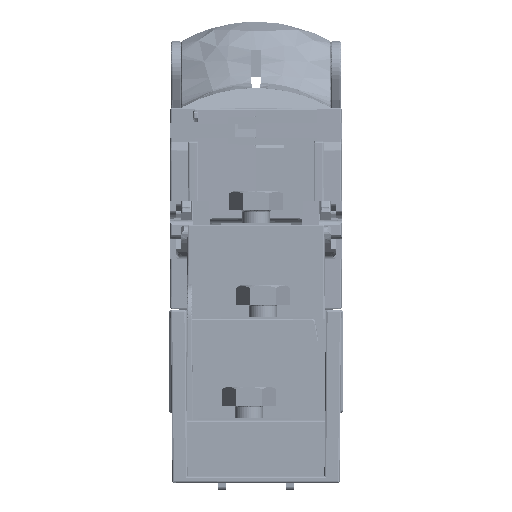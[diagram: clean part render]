
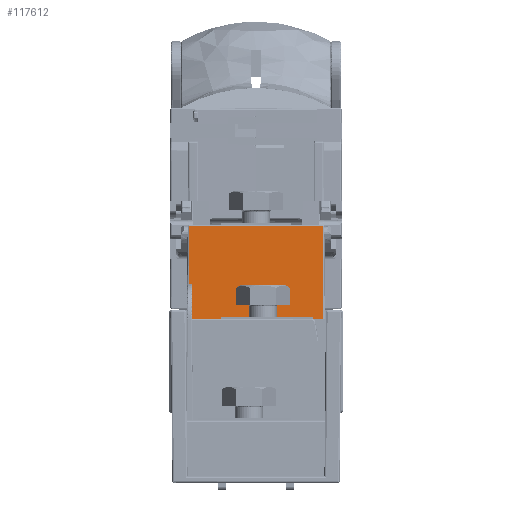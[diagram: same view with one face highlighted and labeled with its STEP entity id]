
A CAD part, left-side view. The second image highlights one B-rep face of the part: STEP entity #117612.
In plain terms, the highlighted planar face has unit normal (-1, 0, 0.009).
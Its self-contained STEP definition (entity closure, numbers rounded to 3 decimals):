
#2000 = CARTESIAN_POINT ( 'NONE',  ( -121.25, -0.951, 26.409 ) ) ;
#2010 = CARTESIAN_POINT ( 'NONE',  ( -121.25, -2., 26.363 ) ) ;
#2018 = CARTESIAN_POINT ( 'NONE',  ( -121.25, -2.535, 26.363 ) ) ;
#2023 = CARTESIAN_POINT ( 'NONE',  ( -121.249, -0.408, 26.5 ) ) ;
#2045 = CARTESIAN_POINT ( 'NONE',  ( -121.249, -3.065, 26.411 ) ) ;
#2049 = CARTESIAN_POINT ( 'NONE',  ( -121.249, -3.592, 26.5 ) ) ;
#2070 = CARTESIAN_POINT ( 'NONE',  ( -121.25, -1.481, 26.363 ) ) ;
#2075 = CARTESIAN_POINT ( 'NONE',  ( -121.25, -2., 26.363 ) ) ;
#20140 = VERTEX_POINT ( 'NONE', #399449 ) ;
#21704 = VERTEX_POINT ( 'NONE', #413019 ) ;
#23820 = VERTEX_POINT ( 'NONE', #290944 ) ;
#75238 = B_SPLINE_CURVE_WITH_KNOTS ( 'NONE', 3,
 ( #2010, #2018, #2045, #2049 ),
 .UNSPECIFIED., .F., .F.,
 ( 4, 4 ),
 ( 0., 0.002 ),
 .UNSPECIFIED. ) ;
#75247 = B_SPLINE_CURVE_WITH_KNOTS ( 'NONE', 3,
 ( #2023, #2000, #2070, #2075 ),
 .UNSPECIFIED., .F., .F.,
 ( 4, 4 ),
 ( 0., 1. ),
 .UNSPECIFIED. ) ;
#81186 = CARTESIAN_POINT ( 'NONE',  ( -121.003, -19.089, 54.703 ) ) ;
#81196 = CARTESIAN_POINT ( 'NONE',  ( -121.249, -8.4, 26.5 ) ) ;
#81212 = CARTESIAN_POINT ( 'NONE',  ( -121.236, -8.413, 28. ) ) ;
#81231 = CARTESIAN_POINT ( 'NONE',  ( -121.249, 4.4, 26.5 ) ) ;
#81247 = CARTESIAN_POINT ( 'NONE',  ( -121.148, 18.685, 38. ) ) ;
#81256 = CARTESIAN_POINT ( 'NONE',  ( -121.148, 19.235, 38. ) ) ;
#81279 = CARTESIAN_POINT ( 'NONE',  ( -121.236, 4.413, 28. ) ) ;
#85309 = EDGE_CURVE ( 'NONE', #20140, #21704, #75238, .T. ) ;
#85314 = EDGE_CURVE ( 'NONE', #23820, #20140, #75247, .T. ) ;
#117612 = ADVANCED_FACE ( 'NONE', ( #242017 ), #242026, .T. ) ;
#146630 = ORIENTED_EDGE ( 'NONE', *, *, #245840, .T. ) ;
#146640 = ORIENTED_EDGE ( 'NONE', *, *, #245800, .T. ) ;
#146647 = ORIENTED_EDGE ( 'NONE', *, *, #237150, .T. ) ;
#146656 = ORIENTED_EDGE ( 'NONE', *, *, #237166, .T. ) ;
#146661 = ORIENTED_EDGE ( 'NONE', *, *, #237247, .T. ) ;
#146669 = ORIENTED_EDGE ( 'NONE', *, *, #246025, .F. ) ;
#146674 = ORIENTED_EDGE ( 'NONE', *, *, #246030, .F. ) ;
#146679 = ORIENTED_EDGE ( 'NONE', *, *, #246038, .T. ) ;
#146685 = ORIENTED_EDGE ( 'NONE', *, *, #237275, .T. ) ;
#146691 = ORIENTED_EDGE ( 'NONE', *, *, #237198, .T. ) ;
#146699 = ORIENTED_EDGE ( 'NONE', *, *, #85314, .T. ) ;
#146706 = ORIENTED_EDGE ( 'NONE', *, *, #85309, .T. ) ;
#146714 = ORIENTED_EDGE ( 'NONE', *, *, #245660, .T. ) ;
#146723 = ORIENTED_EDGE ( 'NONE', *, *, #237063, .F. ) ;
#199514 = VERTEX_POINT ( 'NONE', #457665 ) ;
#204130 = EDGE_LOOP ( 'NONE', ( #146630, #146640, #146647, #146656, #146661, #146669, #146674, #146679, #146685, #146691, #146699, #146706, #146714, #146723 ) ) ;
#237063 = EDGE_CURVE ( 'NONE', #293756, #293732, #278055, .T. ) ;
#237150 = EDGE_CURVE ( 'NONE', #293722, #199514, #278164, .T. ) ;
#237166 = EDGE_CURVE ( 'NONE', #199514, #293786, #278166, .T. ) ;
#237198 = EDGE_CURVE ( 'NONE', #293776, #23820, #278234, .T. ) ;
#237247 = EDGE_CURVE ( 'NONE', #293786, #293796, #278302, .T. ) ;
#237275 = EDGE_CURVE ( 'NONE', #293835, #293776, #278387, .T. ) ;
#239938 =( BOUNDED_CURVE ( )  B_SPLINE_CURVE ( 3, ( #304386, #304349, #304399, #304405 ),
 .UNSPECIFIED., .F., .T. ) 
 B_SPLINE_CURVE_WITH_KNOTS ( ( 4, 4 ),
 ( 4.721, 6.283 ),
 .UNSPECIFIED. ) 
 CURVE ( )  GEOMETRIC_REPRESENTATION_ITEM ( )  RATIONAL_B_SPLINE_CURVE ( ( 1., 0.807, 0.807, 1. ) ) 
 REPRESENTATION_ITEM ( '' )  );
#242017 = FACE_OUTER_BOUND ( 'NONE', #204130, .T. ) ;
#242026 = PLANE ( 'NONE',  #510463 ) ;
#242120 = CARTESIAN_POINT ( 'NONE',  ( -121., 19.8, 55. ) ) ;
#242125 = DIRECTION ( 'NONE',  ( -1., 0., 0.009 ) ) ;
#242131 = DIRECTION ( 'NONE',  ( 0.009, 0., 1. ) ) ;
#245660 = EDGE_CURVE ( 'NONE', #21704, #293732, #303194, .T. ) ;
#245800 = EDGE_CURVE ( 'NONE', #483833, #293722, #303710, .T. ) ;
#245840 = EDGE_CURVE ( 'NONE', #293756, #483833, #303827, .T. ) ;
#246025 = EDGE_CURVE ( 'NONE', #484019, #293796, #239938, .T. ) ;
#246030 = EDGE_CURVE ( 'NONE', #484024, #484019, #304411, .T. ) ;
#246038 = EDGE_CURVE ( 'NONE', #484024, #293835, #304380, .T. ) ;
#273358 = VECTOR ( 'NONE', #278081, 1000. ) ;
#273361 = VECTOR ( 'NONE', #278212, 1000. ) ;
#273386 = VECTOR ( 'NONE', #278185, 1000. ) ;
#273397 = VECTOR ( 'NONE', #278249, 1000. ) ;
#273406 = VECTOR ( 'NONE', #278322, 1000. ) ;
#273414 = VECTOR ( 'NONE', #278400, 1000. ) ;
#278055 = LINE ( 'NONE', #278073, #273358 ) ;
#278073 = CARTESIAN_POINT ( 'NONE',  ( -121.236, -8.413, 28. ) ) ;
#278081 = DIRECTION ( 'NONE',  ( -0.009, 0.009, -1. ) ) ;
#278164 = LINE ( 'NONE', #278176, #273386 ) ;
#278166 = LINE ( 'NONE', #278192, #273361 ) ;
#278176 = CARTESIAN_POINT ( 'NONE',  ( -121.003, 19.8, 54.703 ) ) ;
#278185 = DIRECTION ( 'NONE',  ( 0., 1., 0. ) ) ;
#278192 = CARTESIAN_POINT ( 'NONE',  ( -121.003, 19.089, 54.703 ) ) ;
#278212 = DIRECTION ( 'NONE',  ( -0.009, 0.009, -1. ) ) ;
#278226 = CARTESIAN_POINT ( 'NONE',  ( -121.249, 19.8, 26.5 ) ) ;
#278234 = LINE ( 'NONE', #278226, #273397 ) ;
#278249 = DIRECTION ( 'NONE',  ( 0., -1., 0. ) ) ;
#278288 = CARTESIAN_POINT ( 'NONE',  ( -121.148, 19.8, 38. ) ) ;
#278302 = LINE ( 'NONE', #278288, #273406 ) ;
#278310 = CARTESIAN_POINT ( 'NONE',  ( -121.236, 4.413, 28. ) ) ;
#278322 = DIRECTION ( 'NONE',  ( 0., -1., 0. ) ) ;
#278387 = LINE ( 'NONE', #278310, #273414 ) ;
#278400 = DIRECTION ( 'NONE',  ( -0.009, -0.009, -1. ) ) ;
#290944 = CARTESIAN_POINT ( 'NONE',  ( -121.249, -0.408, 26.5 ) ) ;
#293722 = VERTEX_POINT ( 'NONE', #81186 ) ;
#293732 = VERTEX_POINT ( 'NONE', #81196 ) ;
#293756 = VERTEX_POINT ( 'NONE', #81212 ) ;
#293776 = VERTEX_POINT ( 'NONE', #81231 ) ;
#293786 = VERTEX_POINT ( 'NONE', #81256 ) ;
#293796 = VERTEX_POINT ( 'NONE', #81247 ) ;
#293835 = VERTEX_POINT ( 'NONE', #81279 ) ;
#297359 = VECTOR ( 'NONE', #303208, 1000. ) ;
#297399 = VECTOR ( 'NONE', #303726, 1000. ) ;
#297426 = VECTOR ( 'NONE', #303845, 1000. ) ;
#297496 = VECTOR ( 'NONE', #304428, 1000. ) ;
#297509 = VECTOR ( 'NONE', #304446, 1000. ) ;
#303165 = CARTESIAN_POINT ( 'NONE',  ( -121.249, 19.8, 26.5 ) ) ;
#303194 = LINE ( 'NONE', #303165, #297359 ) ;
#303208 = DIRECTION ( 'NONE',  ( 0., -1., 0. ) ) ;
#303710 = LINE ( 'NONE', #303723, #297399 ) ;
#303723 = CARTESIAN_POINT ( 'NONE',  ( -121.236, -19.322, 28. ) ) ;
#303726 = DIRECTION ( 'NONE',  ( 0.009, 0.009, 1. ) ) ;
#303827 = LINE ( 'NONE', #303840, #297426 ) ;
#303840 = CARTESIAN_POINT ( 'NONE',  ( -121.236, 19.8, 28. ) ) ;
#303845 = DIRECTION ( 'NONE',  ( 0., -1., 0. ) ) ;
#304349 = CARTESIAN_POINT ( 'NONE',  ( -121.149, 18.386, 37.877 ) ) ;
#304380 = LINE ( 'NONE', #304432, #297509 ) ;
#304386 = CARTESIAN_POINT ( 'NONE',  ( -121.151, 18.385, 37.703 ) ) ;
#304399 = CARTESIAN_POINT ( 'NONE',  ( -121.148, 18.51, 38. ) ) ;
#304405 = CARTESIAN_POINT ( 'NONE',  ( -121.148, 18.685, 38. ) ) ;
#304411 = LINE ( 'NONE', #304424, #297496 ) ;
#304424 = CARTESIAN_POINT ( 'NONE',  ( -121.236, 18.3, 28. ) ) ;
#304428 = DIRECTION ( 'NONE',  ( 0.009, 0.009, 1. ) ) ;
#304432 = CARTESIAN_POINT ( 'NONE',  ( -121.236, 19.8, 28. ) ) ;
#304446 = DIRECTION ( 'NONE',  ( 0., -1., 0. ) ) ;
#308833 = CARTESIAN_POINT ( 'NONE',  ( -121.236, -19.322, 28. ) ) ;
#308906 = CARTESIAN_POINT ( 'NONE',  ( -121.151, 18.385, 37.703 ) ) ;
#308908 = CARTESIAN_POINT ( 'NONE',  ( -121.236, 18.3, 28. ) ) ;
#399449 = CARTESIAN_POINT ( 'NONE',  ( -121.25, -2., 26.363 ) ) ;
#413019 = CARTESIAN_POINT ( 'NONE',  ( -121.249, -3.592, 26.5 ) ) ;
#457665 = CARTESIAN_POINT ( 'NONE',  ( -121.003, 19.089, 54.703 ) ) ;
#483833 = VERTEX_POINT ( 'NONE', #308833 ) ;
#484019 = VERTEX_POINT ( 'NONE', #308906 ) ;
#484024 = VERTEX_POINT ( 'NONE', #308908 ) ;
#510463 = AXIS2_PLACEMENT_3D ( 'NONE', #242120, #242125, #242131 ) ;
